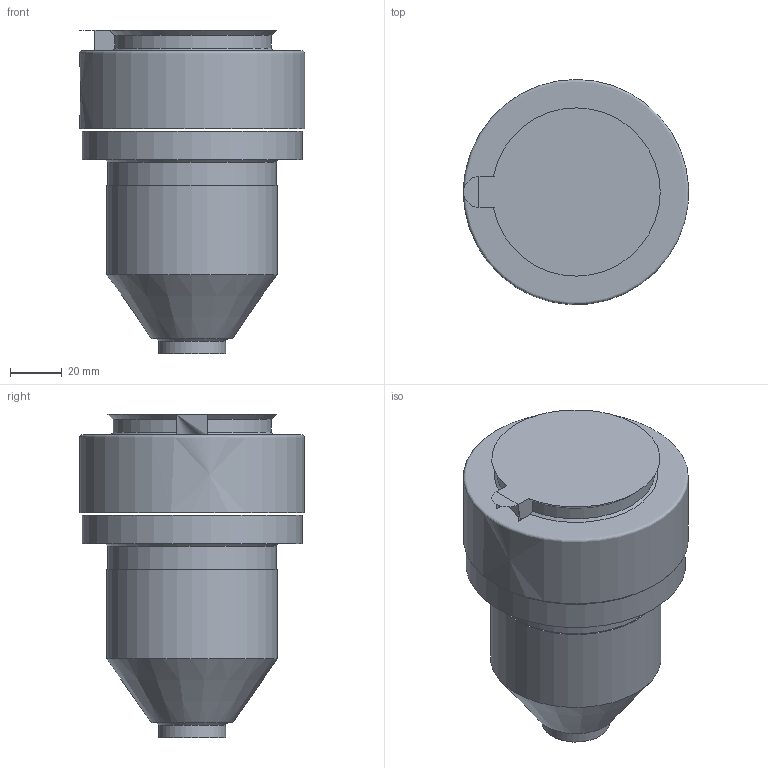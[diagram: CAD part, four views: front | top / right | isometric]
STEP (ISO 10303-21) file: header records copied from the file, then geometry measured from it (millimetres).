
FILE_DESCRIPTION(('STEP AP214'),'1');
FILE_NAME('SEDE IPS5000-C.stp','2018-06-13T12:47:46',(' '),(' '),'Spatial InterOp 3D',' ',' ');
FILE_SCHEMA(('AUTOMOTIVE_DESIGN { 1 0 10303 214 1 1 1 1 }'));
Length unit declared in the file: millimetre
Products named in the file (1): 1
Bounding box: 86.94 x 86.91 x 125 mm (x, y, z)
Volume: 468193.9 mm3; surface area: 48200.8 mm2
Topology: 2 solids, 2 shells, 22 faces, 41 edges, 26 vertices
Faces by surface type: plane 9, cylinder 6, cone 5, revolution 2
Full cylindrical faces by diameter (mm): 12 x1, 26 x1, 65 x1, 66 x1, 85 x1
Entity records: 719 total; most frequent: CARTESIAN_POINT 141, DIRECTION 87, ORIENTED_EDGE 60, AXIS2_PLACEMENT_3D 39, EDGE_LOOP 32, EDGE_CURVE 30, FACE_OUTER_BOUND 26, VERTEX_POINT 24
